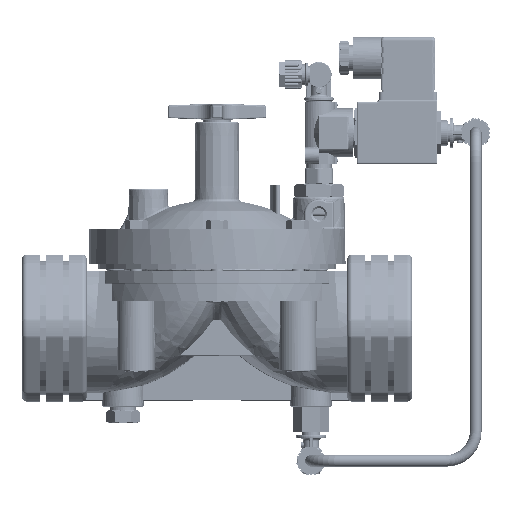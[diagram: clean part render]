
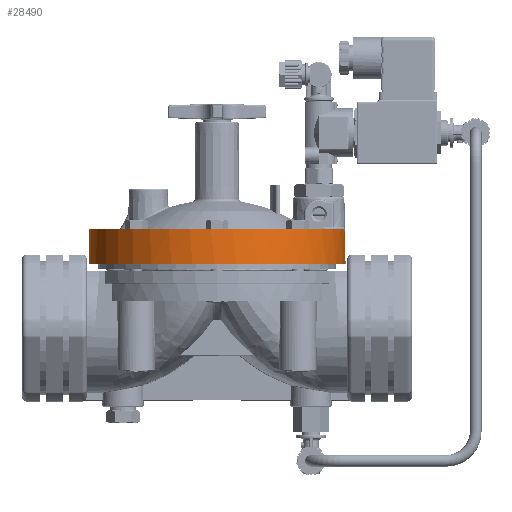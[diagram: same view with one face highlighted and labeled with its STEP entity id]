
A CAD part, front view. The second image highlights one B-rep face of the part: STEP entity #28490.
In plain terms, the highlighted conical face has half-angle 1 degrees and reference radius 65.243 mm.
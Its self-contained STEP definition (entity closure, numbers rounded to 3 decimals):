
#15709=EDGE_CURVE('',#41057,#42498,#42499,.T.);
#19801=EDGE_CURVE('',#49390,#46201,#49391,.T.);
#20662=EDGE_CURVE('',#50764,#46201,#50765,.T.);
#20930=EDGE_CURVE('',#51182,#41057,#51183,.T.);
#28490=ADVANCED_FACE('',(#62416),#62417,.T.);
#30644=EDGE_CURVE('',#42498,#49390,#66529,.T.);
#41057=VERTEX_POINT('',#78905);
#42498=VERTEX_POINT('',#83447);
#42499=B_SPLINE_CURVE_WITH_KNOTS('',3,(#83448,#83449,#83450,#83451,#83452,#83453,#83454,#83455,#83456,#83457,#83458,#83459),.UNSPECIFIED.,.F.,.F.,(4,2,2,2,2,4),(7.832,9.407,10.998,11.443,11.67,11.814),.UNSPECIFIED.);
#46201=VERTEX_POINT('',#95228);
#49390=VERTEX_POINT('',#105674);
#49391=B_SPLINE_CURVE_WITH_KNOTS('',3,(#105675,#105676,#105677,#105678),.UNSPECIFIED.,.F.,.F.,(4,4),(0.0,18.753),.UNSPECIFIED.);
#50764=VERTEX_POINT('',#110492);
#50765=CIRCLE('',#110493,65.4);
#51182=VERTEX_POINT('',#112210);
#51183=CIRCLE('',#112211,65.086);
#62416=FACE_OUTER_BOUND('',#153434,.T.);
#62417=CONICAL_SURFACE('',#153435,65.243,0.017);
#66529=B_SPLINE_CURVE_WITH_KNOTS('',3,(#166408,#166409,#166410,#166411),.UNSPECIFIED.,.F.,.F.,(4,4),(0.0,33.022),.UNSPECIFIED.);
#78905=CARTESIAN_POINT('',(64.776,-6.347,18.0));
#83447=CARTESIAN_POINT('',(65.019,-2.547,18.983));
#83448=CARTESIAN_POINT('',(64.776,-6.347,18.0));
#83449=CARTESIAN_POINT('',(64.838,-5.706,18.001));
#83450=CARTESIAN_POINT('',(64.893,-5.026,18.079));
#83451=CARTESIAN_POINT('',(64.974,-3.771,18.328));
#83452=CARTESIAN_POINT('',(65.002,-3.149,18.507));
#83453=CARTESIAN_POINT('',(65.016,-2.716,18.748));
#83454=CARTESIAN_POINT('',(65.018,-2.653,18.796));
#83455=CARTESIAN_POINT('',(65.019,-2.591,18.864));
#83456=CARTESIAN_POINT('',(65.019,-2.572,18.891));
#83457=CARTESIAN_POINT('',(65.019,-2.552,18.941));
#83458=CARTESIAN_POINT('',(65.019,-2.547,18.961));
#83459=CARTESIAN_POINT('',(65.019,-2.547,18.983));
#95228=CARTESIAN_POINT('',(65.349,-2.586,0.0));
#105674=CARTESIAN_POINT('',(65.036,-2.549,18.0));
#105675=CARTESIAN_POINT('',(65.018,-2.547,19.0));
#105676=CARTESIAN_POINT('',(65.127,-2.56,12.75));
#105677=CARTESIAN_POINT('',(65.258,-2.575,5.25));
#105678=CARTESIAN_POINT('',(65.366,-2.588,-1.));
#110492=CARTESIAN_POINT('',(-65.4,0.,0.0));
#110493=AXIS2_PLACEMENT_3D('',#223521,#223522,#223523);
#112210=CARTESIAN_POINT('',(-65.086,0.,18.0));
#112211=AXIS2_PLACEMENT_3D('',#223913,#223914,#223915);
#153434=EDGE_LOOP('',(#237458,#237459,#237460,#237461,#237462,#237463));
#153435=AXIS2_PLACEMENT_3D('',#237464,#237465,#237466);
#166408=CARTESIAN_POINT('',(64.754,-2.516,34.217));
#166409=CARTESIAN_POINT('',(64.945,-2.539,23.212));
#166410=CARTESIAN_POINT('',(65.175,-2.565,10.005));
#166411=CARTESIAN_POINT('',(65.366,-2.588,-1.));
#223521=CARTESIAN_POINT('',(0.0,0.0,0.0));
#223522=DIRECTION('',(0.0,0.0,1.0));
#223523=DIRECTION('',(1.0,0.0,0.0));
#223913=CARTESIAN_POINT('',(0.0,0.0,18.0));
#223914=DIRECTION('',(0.0,0.0,1.0));
#223915=DIRECTION('',(1.0,0.0,0.0));
#237458=ORIENTED_EDGE('',*,*,#269274,.T.);
#237459=ORIENTED_EDGE('',*,*,#20662,.T.);
#237460=ORIENTED_EDGE('',*,*,#19801,.F.);
#237461=ORIENTED_EDGE('',*,*,#30644,.F.);
#237462=ORIENTED_EDGE('',*,*,#15709,.F.);
#237463=ORIENTED_EDGE('',*,*,#20930,.F.);
#237464=CARTESIAN_POINT('',(0.0,0.0,9.0));
#237465=DIRECTION('',(-0.0,-0.0,-1.0));
#237466=DIRECTION('',(1.0,0.0,0.0));
#269274=EDGE_CURVE('',#51182,#50764,#284835,.T.);
#284835=LINE('',#327425,#327426);
#327425=CARTESIAN_POINT('',(-65.243,0.,9.0));
#327426=VECTOR('',#360003,1.0);
#360003=DIRECTION('',(-0.017,0.,-1.));
